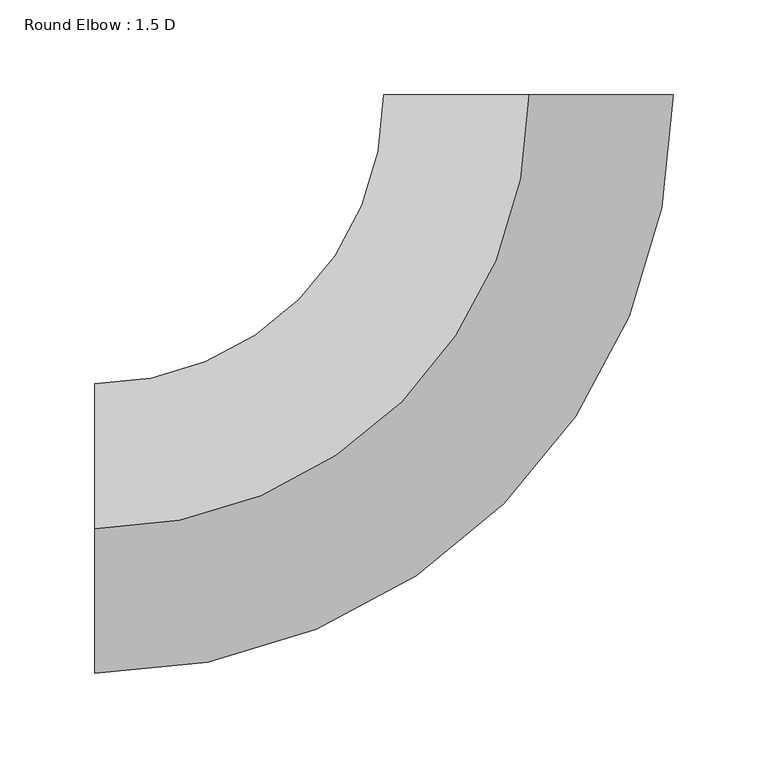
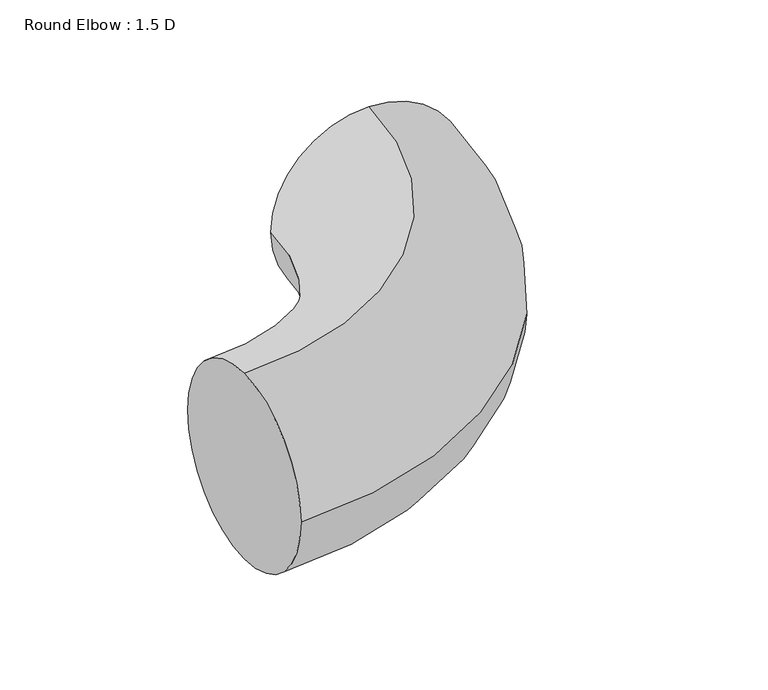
"""IFC4 building model written with IfcOpenShell, lengths in millimetres: duct fitting geometry, Round Elbow : 1.5 D."""

import ifcopenshell
import ifcopenshell.guid

model = None  # the IFC model being written
_history = None  # IfcOwnerHistory: only IFC2X3 demands one
_inside = {}  # id of a spatial element -> (the spatial element, [elements in it])
_under = {}  # id of a project, library or spatial element -> (it, [spatial elements below it])
_declared = {}  # id of a project -> (the project, [libraries it declares])
_typed = {}  # id of a type object -> (the type object, [elements of that type])
_made_of = {}  # id of a material, layer set ... -> (it, [elements and type objects made of it])


def new_model(schema):
    """Start an empty IFC model of exactly this schema.

    Asked for "IFC4X3", IfcOpenShell would pick the latest addendum, in which some entities
    have other attributes; the version numbers below select the first issue.
    IFC2X3 requires an IfcOwnerHistory on every rooted entity: one is made here for all.
    """
    global model, _history
    if schema == "IFC4X3":
        model = ifcopenshell.file(schema_version=(4, 3, 0, 0))
    else:
        model = ifcopenshell.file(schema=schema)
    _inside.clear()
    _under.clear()
    _declared.clear()
    _typed.clear()
    _made_of.clear()
    _history = None
    if model.schema == "IFC2X3":
        org = make("IfcOrganization", Name="unknown")
        user = make(
            "IfcPersonAndOrganization",
            ThePerson=make("IfcPerson", FamilyName="unknown"),
            TheOrganization=org,
        )
        app = make(
            "IfcApplication",
            ApplicationDeveloper=org,
            Version="unknown",
            ApplicationFullName="unknown",
            ApplicationIdentifier="unknown",
        )
        _history = make(
            "IfcOwnerHistory",
            OwningUser=user,
            OwningApplication=app,
            ChangeAction="ADDED",
            CreationDate=0,
        )
    return model


def make(cls, **values):
    """One entity of the class cls with the attributes given. An attribute that is None is left unset."""
    return model.create_entity(
        cls, **{name: value for name, value in values.items() if value is not None}
    )


def rooted(cls, **values):
    """An entity with a GlobalId (a new one), such as an element, a storey or a relation."""
    return make(cls, GlobalId=ifcopenshell.guid.new(), OwnerHistory=_history, **values)


def si_unit(unit_type, name, prefix=None):
    """IfcSIUnit, for example si_unit("LENGTHUNIT", "METRE", prefix="MILLI")."""
    return make("IfcSIUnit", UnitType=unit_type, Prefix=prefix, Name=name)


def assignment(units):
    """IfcUnitAssignment: the units of a project."""
    return None if units is None else make("IfcUnitAssignment", Units=units)


def point(xyz):
    """IfcCartesianPoint."""
    return None if xyz is None else make("IfcCartesianPoint", Coordinates=xyz)


def direction(xyz):
    """IfcDirection."""
    return None if xyz is None else make("IfcDirection", DirectionRatios=xyz)


def frame(location, z_axis=None, x_axis=None):
    """IfcAxis2Placement3D, a coordinate frame: its origin and axes. An axis left out is left unset."""
    return make(
        "IfcAxis2Placement3D",
        Location=point(location),
        Axis=direction(z_axis),
        RefDirection=direction(x_axis),
    )


def origin():
    """The frame at (0, 0, 0) with its axes left unset."""
    return frame((0.0, 0.0, 0.0))


def place(relative_to, where):
    """IfcLocalPlacement: puts the frame where relative to a parent placement (None: the world)."""
    return make(
        "IfcLocalPlacement", PlacementRelTo=relative_to, RelativePlacement=where
    )


def context(
    kind, dimensions, precision=None, world=None, true_north=None, identifier=None
):
    """IfcGeometricRepresentationContext, for example the 3D "Model" context."""
    return make(
        "IfcGeometricRepresentationContext",
        ContextIdentifier=identifier,
        ContextType=kind,
        CoordinateSpaceDimension=dimensions,
        Precision=precision,
        WorldCoordinateSystem=world,
        TrueNorth=true_north,
    )


def project(units=None, contexts=None):
    """IfcProject with its units and contexts."""
    return rooted(
        "IfcProject",
        Name="project",
        RepresentationContexts=contexts,
        UnitsInContext=assignment(units),
    )


def spatial(cls, under=None, at=None, **own):
    """A site, building, storey or space (cls), placed at a placement, below another one or the project."""
    s = rooted(cls, ObjectPlacement=at, **own)
    if under is not None:
        _under.setdefault(under.id(), (under, []))[1].append(s)
    return s


def circle_curve(where, radius):
    """IfcCircle in the frame where."""
    return make("IfcCircle", Position=where, Radius=radius)


def ellipse_curve(where, semi_axis1, semi_axis2):
    """IfcEllipse in the frame where."""
    return make(
        "IfcEllipse", Position=where, SemiAxis1=semi_axis1, SemiAxis2=semi_axis2
    )


def trimmed(basis, trim1, trim2, sense, master):
    """IfcTrimmedCurve: the piece of a basis curve between two trims."""
    return make(
        "IfcTrimmedCurve",
        BasisCurve=basis,
        Trim1=trim1,
        Trim2=trim2,
        SenseAgreement=sense,
        MasterRepresentation=master,
    )


def shape(context_of_items, identifier, shape_type, items):
    """IfcShapeRepresentation: the items that make up one representation, for example the "Body"."""
    return make(
        "IfcShapeRepresentation",
        ContextOfItems=context_of_items,
        RepresentationIdentifier=identifier,
        RepresentationType=shape_type,
        Items=items,
    )


def source(mapping_origin, context_of_items, identifier, shape_type, items):
    """IfcRepresentationMap: a shape defined once, which mapped items show again and again."""
    return make(
        "IfcRepresentationMap",
        MappingOrigin=mapping_origin,
        MappedRepresentation=shape(context_of_items, identifier, shape_type, items),
    )


def transform(
    local_origin,
    x_axis=None,
    y_axis=None,
    z_axis=None,
    scale=None,
    scale2=None,
    scale3=None,
    uniform=True,
):
    """IfcCartesianTransformationOperator3D, or its non-uniform kind. x_axis, y_axis, z_axis: its Axis1, 2, 3."""
    if uniform:
        return make(
            "IfcCartesianTransformationOperator3D",
            Axis1=direction(x_axis),
            Axis2=direction(y_axis),
            LocalOrigin=point(local_origin),
            Scale=scale,
            Axis3=direction(z_axis),
        )
    return make(
        "IfcCartesianTransformationOperator3DnonUniform",
        Axis1=direction(x_axis),
        Axis2=direction(y_axis),
        LocalOrigin=point(local_origin),
        Scale=scale,
        Axis3=direction(z_axis),
        Scale2=scale2,
        Scale3=scale3,
    )


def mapped(mapping_source, mapping_target):
    """IfcMappedItem: shows the shape of a source again, moved by a transform."""
    return make(
        "IfcMappedItem", MappingSource=mapping_source, MappingTarget=mapping_target
    )


def made_of(thing, what):
    """Note that an element or type object is made of a material, layer set ...; save() writes the relation."""
    if what is not None:
        _made_of.setdefault(what.id(), (what, []))[1].append(thing)
    return thing


def element(
    cls,
    number,
    at=None,
    inside=None,
    cuts=None,
    type_object=None,
    material=None,
    context=None,
    identifier="Body",
    shape_type=None,
    held_by="IfcProductDefinitionShape",
    body=None,
    shapes=None,
    **own,
):
    """One element of the class cls, such as IfcWall. Its Tag is "e" and its number.

    at: its placement. inside: the storey or other place that contains it. cuts: it is an
    opening in that element (IfcRelVoidsElement). A single representation is given by context,
    identifier, shape_type and body (its items); several are given by shapes. held_by: the class
    of the entity that holds the representations. save() writes the other relations.
    """
    e = rooted(cls, Tag="e%d" % number, ObjectPlacement=at, **own)
    if body is not None:
        shapes = [shape(context, identifier, shape_type, body)]
    if shapes is not None:
        e.Representation = make(held_by, Representations=shapes)
    if inside is not None:
        _inside.setdefault(inside.id(), (inside, []))[1].append(e)
    if cuts is not None:
        rooted(
            "IfcRelVoidsElement", RelatingBuildingElement=cuts, RelatedOpeningElement=e
        )
    if type_object is not None:
        _typed.setdefault(type_object.id(), (type_object, []))[1].append(e)
    return made_of(e, material)


def aggregate(whole, parts):
    """IfcRelAggregates: a whole, such as a stair, and the parts it consists of."""
    return rooted("IfcRelAggregates", RelatingObject=whole, RelatedObjects=parts)


def save(model, path):
    """Write the relations noted so far, then the file.

    IfcRelAggregates (storeys below a building ...), IfcRelContainedInSpatialStructure (elements
    in a storey), IfcRelDefinesByType, IfcRelAssociatesMaterial and IfcRelDeclares: one each for
    every whole, place, type object, material and project.
    """
    for whole, parts in _under.values():
        aggregate(whole, parts)
    for where, things in _inside.values():
        rooted(
            "IfcRelContainedInSpatialStructure",
            RelatedElements=things,
            RelatingStructure=where,
        )
    for kind, things in _typed.values():
        rooted("IfcRelDefinesByType", RelatedObjects=things, RelatingType=kind)
    for what, things in _made_of.values():
        rooted("IfcRelAssociatesMaterial", RelatedObjects=things, RelatingMaterial=what)
    for by, libraries in _declared.values():
        rooted("IfcRelDeclares", RelatingContext=by, RelatedDefinitions=libraries)
    model.write(path)


def plane_surface(at):
    """IfcPlane: the flat surface through the origin of the frame at, square to its z axis."""
    return make("IfcPlane", Position=at)


def revolved_surface(curve, axis_point, axis_direction):
    """IfcSurfaceOfRevolution: the curve turned about the line through axis_point along axis_direction."""
    return make(
        "IfcSurfaceOfRevolution",
        SweptCurve=make("IfcArbitraryOpenProfileDef", ProfileType="CURVE", Curve=curve),
        AxisPosition=make("IfcAxis1Placement", Location=point(axis_point), Axis=direction(axis_direction)),
    )


def advanced_brep(points, edges, surfaces, faces):
    """IfcAdvancedBrep: a solid bounded by faces that lie on surfaces and meet in shared edges.

    An edge is (start, end): straight between two places in points (the first is 0);
    or (start, end, curve); or (start, end, curve, False) where it runs against its curve.
    A face is (place in surfaces, loops), or (place, loops, False) where it looks against
    its surface's normal. A loop lists edges by number (the first is 1), with a minus sign
    where the edge is run from its end to its start. The first loop is the outer one.
    """
    corners = [point(p) for p in points]
    vertices = [make("IfcVertexPoint", VertexGeometry=c) for c in corners]
    made = []
    for start, end, *more in edges:
        made.append(
            make(
                "IfcEdgeCurve",
                EdgeStart=vertices[start],
                EdgeEnd=vertices[end],
                EdgeGeometry=more[0] if more else make("IfcPolyline", Points=[corners[start], corners[end]]),
                SameSense=more[1] if len(more) > 1 else True,
            )
        )
    hull = []
    for where, loops, *sense in faces:
        bounds = []
        for j, loop in enumerate(loops):
            ring = [make("IfcOrientedEdge", EdgeElement=made[abs(k) - 1], Orientation=k > 0) for k in loop]
            bounds.append(
                make(
                    "IfcFaceOuterBound" if j == 0 else "IfcFaceBound",
                    Bound=make("IfcEdgeLoop", EdgeList=ring),
                    Orientation=True,
                )
            )
        hull.append(make("IfcAdvancedFace", Bounds=bounds, FaceSurface=surfaces[where], SameSense=sense[0] if sense else True))
    return make("IfcAdvancedBrep", Outer=make("IfcClosedShell", CfsFaces=hull))


def round_elbow_1_5_d_070871eb(model_context):
    return source(origin(), model_context, "Body", "AdvancedBrep", [
        advanced_brep(
        [(-228.6, 0.0, 76.2), (-228.6, 76.2, 0.0), (-228.6, 0.0, -76.2), (-228.6, -76.2, 0.0), (0.0, 228.6, 76.2), (76.2, 228.6, 0.0), (0.0, 228.6, -76.2), (-76.2, 228.6, 0.0)],
        [
            (0, 1, circle_curve(frame((-228.6, 0.0, 0.0), z_axis=(-1.0, 0.0, 0.0), x_axis=(0.0, 1.0, 0.0)), 76.2)),
            (1, 2, circle_curve(frame((-228.6, 0.0, 0.0), z_axis=(-1.0, 0.0, 0.0), x_axis=(0.0, 1.0, 0.0)), 76.2)),
            (2, 3, circle_curve(frame((-228.6, 0.0, 0.0), z_axis=(-1.0, 0.0, 0.0), x_axis=(0.0, 1.0, 0.0)), 76.2)),
            (3, 0, circle_curve(frame((-228.6, 0.0, 0.0), z_axis=(-1.0, 0.0, 0.0), x_axis=(0.0, 1.0, 0.0)), 76.2)),
            (4, 5, circle_curve(frame((0.0, 228.6, 0.0), z_axis=(0.0, 1.0, 0.0), x_axis=(-1.0, 0.0, 0.0)), 76.2)),
            (5, 6, circle_curve(frame((0.0, 228.6, 0.0), z_axis=(0.0, 1.0, 0.0), x_axis=(-1.0, 0.0, 0.0)), 76.2)),
            (6, 7, circle_curve(frame((0.0, 228.6, 0.0), z_axis=(0.0, 1.0, 0.0), x_axis=(-1.0, 0.0, 0.0)), 76.2)),
            (7, 4, circle_curve(frame((0.0, 228.6, 0.0), z_axis=(0.0, 1.0, 0.0), x_axis=(-1.0, 0.0, 0.0)), 76.2)),
            (7, 1, circle_curve(frame((-228.6, 228.6, 0.0), z_axis=(0.0, 0.0, -1.0), x_axis=(0.0, -1.0, 0.0)), 152.4)),
            (0, 4, circle_curve(frame((-228.6, 228.6, 76.2), z_axis=(0.0, 0.0, 1.0), x_axis=(0.0, -1.0, 0.0)), 228.6)),
            (6, 2, circle_curve(frame((-228.6, 228.6, -76.2), z_axis=(0.0, 0.0, -1.0), x_axis=(0.0, -1.0, 0.0)), 228.6)),
            (5, 3, circle_curve(frame((-228.6, 228.6, 0.0), z_axis=(0.0, 0.0, -1.0), x_axis=(0.0, -1.0, 0.0)), 304.8)),
        ],
        [
            plane_surface(frame((-228.6, 0.0, 0.0), z_axis=(-1.0, 0.0, 0.0), x_axis=(0.0, 0.0, 1.0))),
            plane_surface(frame((0.0, 228.6, 0.0), z_axis=(0.0, 1.0, 0.0), x_axis=(0.0, 0.0, 1.0))),
            revolved_surface(trimmed(ellipse_curve(frame((-228.6, 0.0, 0.0), z_axis=(-1.0, 0.0, 0.0), x_axis=(0.0, 1.0, 0.0)), 76.2, 76.2), [point((-228.6, 0.0, 76.2))], [point((-228.6, 76.2, 0.0))], True, "CARTESIAN"), (-228.6, 228.6, 0.0), (0.0, 0.0, 1.0)),
            revolved_surface(trimmed(ellipse_curve(frame((-228.6, 0.0, 0.0), z_axis=(-1.0, 0.0, 0.0), x_axis=(0.0, 1.0, 0.0)), 76.2, 76.2), [point((-228.6, 76.2, 0.0))], [point((-228.6, 0.0, -76.2))], True, "CARTESIAN"), (-228.6, 228.6, 0.0), (0.0, 0.0, 1.0)),
            revolved_surface(trimmed(ellipse_curve(frame((-228.6, 0.0, 0.0), z_axis=(-1.0, 0.0, 0.0), x_axis=(0.0, 1.0, 0.0)), 76.2, 76.2), [point((-228.6, 0.0, -76.2))], [point((-228.6, -76.2, 0.0))], True, "CARTESIAN"), (-228.6, 228.6, 0.0), (0.0, 0.0, 1.0)),
            revolved_surface(trimmed(ellipse_curve(frame((-228.6, 0.0, 0.0), z_axis=(-1.0, 0.0, 0.0), x_axis=(0.0, 1.0, 0.0)), 76.2, 76.2), [point((-228.6, -76.2, 0.0))], [point((-228.6, 0.0, 76.2))], True, "CARTESIAN"), (-228.6, 228.6, 0.0), (0.0, 0.0, 1.0)),
        ],
        [
            (0, [[1, 2, 3, 4]]),
            (1, [[5, 6, 7, 8]]),
            (2, [[9, -1, 10, -8]]),
            (3, [[11, -2, -9, -7]]),
            (4, [[12, -3, -11, -6]]),
            (5, [[-10, -4, -12, -5]]),
        ],
    ),
    ])


if __name__ == "__main__":
    model = new_model("IFC4")
    model_context = context("Model", 3, world=origin())
    ifc_project = project(units=[si_unit("LENGTHUNIT", "METRE", prefix="MILLI")], contexts=[model_context])
    site = spatial("IfcSite", under=ifc_project)
    building = spatial("IfcBuilding", under=site)
    placement = place(None, origin())
    round_elbow_1_5_d_shape = round_elbow_1_5_d_070871eb(model_context)
    element("IfcDuctFitting", 1, ObjectType="Round Elbow : 1.5 D", at=placement, inside=building, context=model_context, shape_type="MappedRepresentation", body=[
        mapped(round_elbow_1_5_d_shape, transform((0.0, 0.0, 0.0), x_axis=(1.0, 0.0, 0.0), y_axis=(0.0, 1.0, 0.0), z_axis=(0.0, 0.0, 1.0))),
    ])
    save(model, "model.ifc")
